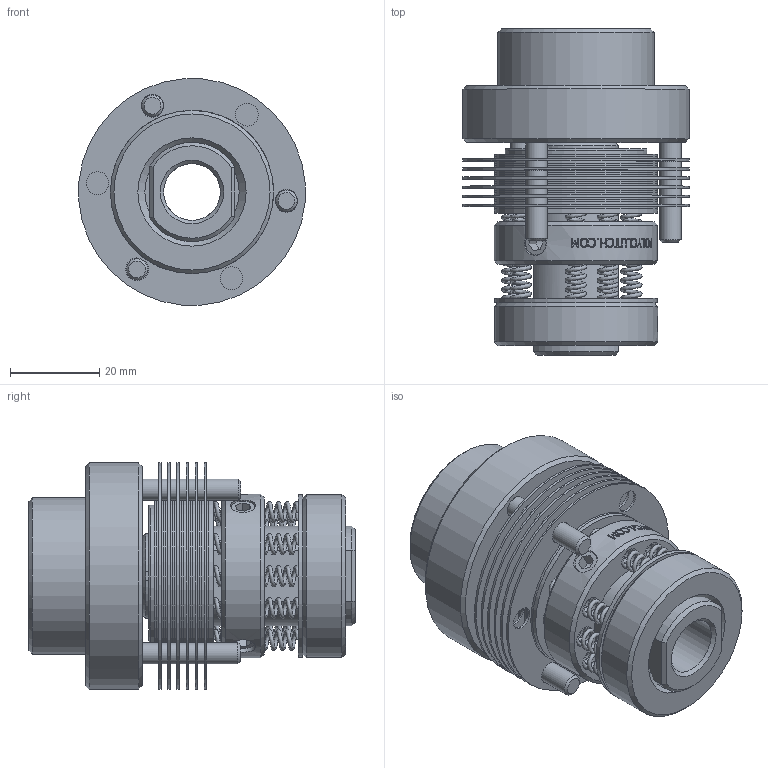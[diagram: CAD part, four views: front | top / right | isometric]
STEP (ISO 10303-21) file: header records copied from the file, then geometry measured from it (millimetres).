
FILE_DESCRIPTION((''),'2;1');
FILE_NAME('P:\Public\Organized 3D Clutch Assembly Files - Jessica\Slippers\Multi Plate\Size 32\SAO32-8.stp','2013-02-01T10:20:59',('TodLob'),(''),'Autodesk Inventor 2011','Autodesk Inventor 2011','');
FILE_SCHEMA(('AUTOMOTIVE_DESIGN { 1 0 10303 214 1 1 1 1 }'));
Length unit declared in the file: inch
Products named in the file (15): SAO32; S3211-8; S3217-6A; S3238; S3221; S3229; S3215; S3219; S3214A; S3240; Type A - Hexagon Socket Set Screw - Cup Point - Inch 1/4-28 UNF x 0.25; S3239; S3209; S3223; 8-10-12
Assembly tree (46 placements, depth 2):
  SAO32
    S3211-8
    S3217-6A
    S3238
    S3221  x12
    S3229  x6
    S3215  x6
    S3219
    S3214A  x9
    S3240
    Type A - Hexagon Socket Set Screw - Cup Point - Inch 1/4-28 UNF x 0.25  x2
    S3239
    S3209
    S3223  x3
    8-10-12
Bounding box: 50.63 x 73.03 x 50.63 mm (x, y, z)
Volume: 70374.3 mm3; surface area: 76949.2 mm2
Topology: 271 solids, 271 shells, 2494 faces, 5446 edges, 3595 vertices
Faces by surface type: plane 2094, cylinder 184, bspline 165, cone 32, sphere 17, torus 2
Full cylindrical faces by diameter (mm): 1.168 x36, 3.454 x1, 4.763 x6, 4.877 x9, 5.105 x36, 5.613 x2, 6.35 x2, 12.7 x2, 15.875 x2, 19.101 x1, 21.082 x1, 22.225 x1, 22.327 x12, 23.8 x6, 31.75 x1, 35.179 x1, 36.5 x21, 36.513 x1, 50.8 x7
Entity records: 62636 total; most frequent: CARTESIAN_POINT 34633, ORIENTED_EDGE 5470, DIRECTION 5247, EDGE_CURVE 2735, VECTOR 1975, LINE 1975, VERTEX_POINT 1834, EDGE_LOOP 1659
